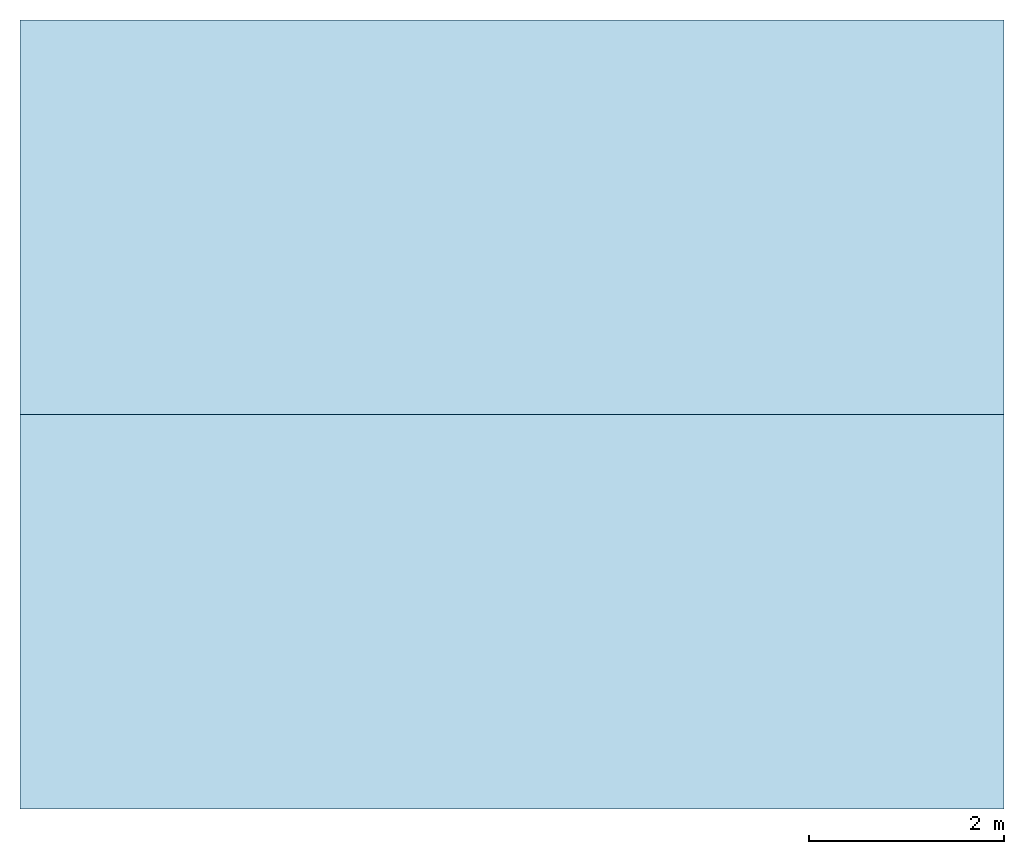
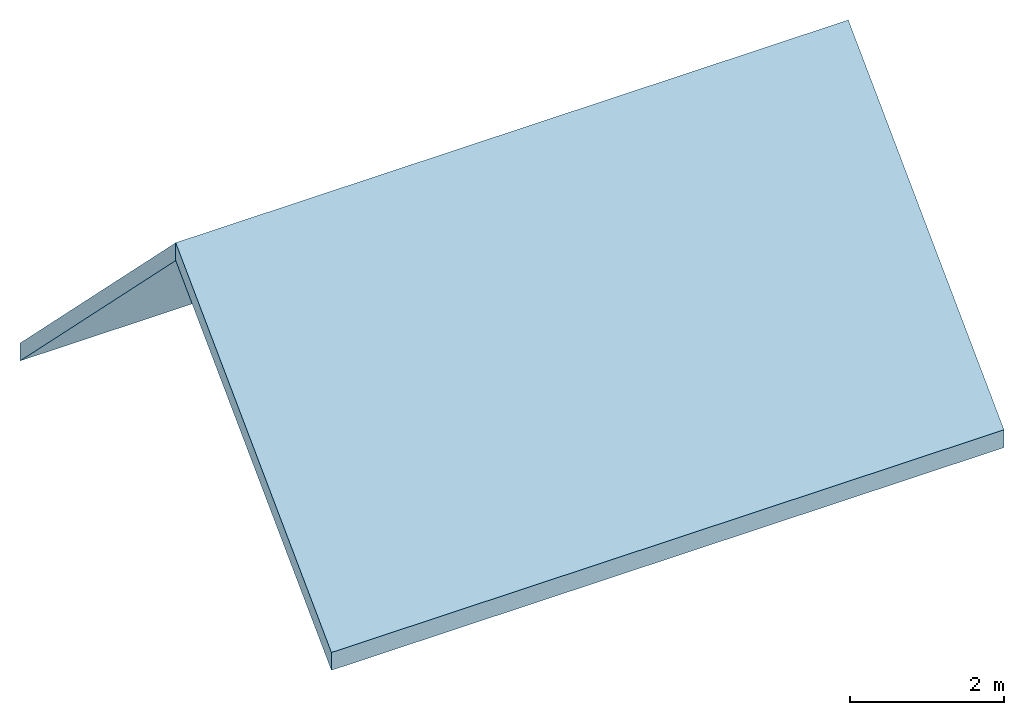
# One storey: 2 slabs, 1 element without a shape of its own.
"""IFC2X3 building model written with IfcOpenShell, lengths in metres."""

from ifc_helpers import new_model, entity, si_unit, converted_unit, derived_unit, direction, frame, frame_2d, origin, place, context, subcontext, project, spatial, rectangle, extrude, material, layer, layer_set, element, aggregate, save


model = new_model("IFC2X3")

# Units and contexts
model_context = context("Model", 3, precision=1e-09, world=origin(), true_north=direction((2.0, 6.12303176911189e-17, 1.0)))
context_of_model = context(None, 3, precision=1e-09, world=origin(), true_north=direction((2.0, 6.12303176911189e-17, 1.0)))
body_context = subcontext(model_context, "Body", "Model", "MODEL_VIEW")
ifc_project = project(units=[si_unit("LENGTHUNIT", "METRE"), si_unit("AREAUNIT", "SQUARE_METRE"), si_unit("VOLUMEUNIT", "CUBIC_METRE"), converted_unit("PLANEANGLEUNIT", "DEGREE", entity("IfcRatioMeasure", 0.0174532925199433), si_unit("PLANEANGLEUNIT", "RADIAN"), dimensions=[0, 0, 0, 0, 0, 0, 0]), si_unit("MASSUNIT", "GRAM", prefix="KILO"), si_unit("TIMEUNIT", "SECOND"), si_unit("THERMODYNAMICTEMPERATUREUNIT", "KELVIN"), derived_unit("THERMALTRANSMITTANCEUNIT", [(si_unit("MASSUNIT", "GRAM", prefix="KILO"), 1), (si_unit("THERMODYNAMICTEMPERATUREUNIT", "KELVIN"), -1), (si_unit("TIMEUNIT", "SECOND"), -3)]), derived_unit("VOLUMETRICFLOWRATEUNIT", [(si_unit("LENGTHUNIT", "METRE"), 3), (si_unit("TIMEUNIT", "SECOND"), -1)]), si_unit("POWERUNIT", "WATT")], contexts=[model_context, context_of_model])

# Site, building, storey
site_placement = place(None, origin())
site = spatial("IfcSite", under=ifc_project, at=site_placement, Name="Default", CompositionType="ELEMENT")
building_placement = place(site_placement, origin())
building = spatial("IfcBuilding", under=site, at=building_placement, CompositionType="ELEMENT")
storey_placement = place(building_placement, frame((0.0, 0.0, 3.0)))
storey = spatial("IfcBuildingStorey", under=building, at=storey_placement, Name="Niveau 01", CompositionType="ELEMENT", Elevation=2.9999999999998)

# Roof, slabs
roof_placement = place(storey_placement, frame((-6.7029812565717, 24.1452354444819, -0.299999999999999)))
roof = element("IfcRoof", 1, at=roof_placement, inside=storey, Name="Toit de base:Toit - 200 mm", ObjectType="Toit de base:Toit - 200 mm", ShapeType="NOTDEFINED")
ifc_material = material(Name="Toit par défaut")
ifc_layer = layer(ifc_material, 0.2)
ifc_layer_set = layer_set([ifc_layer], Name="Toit de base:Toit - 200 mm")
slab_1_placement = place(roof_placement, origin())
slab_1 = element("IfcSlab", 2, at=slab_1_placement, material=ifc_layer_set, Name="Toit de base:Toit - 200 mm", ObjectType="Toit de base:Toit - 200 mm", PredefinedType="ROOF", context=body_context, shape_type="SweptSolid", body=[
    extrude(rectangle(XDim=10.1, YDim=5.72756492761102, at=frame_2d((4.88498130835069e-15, 3.33066907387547e-15), x_axis=(1.0, 0.0))), frame((5.05000000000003, 6.07500000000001, 2.02499999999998), z_axis=(0.0, 0.707106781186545, 0.70710678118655), x_axis=(1.0, 0.0, 0.0)), (0.0, -0.707106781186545, 0.70710678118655), 0.282842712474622),
])
slab_2_placement = place(roof_placement, origin())
slab_2 = element("IfcSlab", 3, at=slab_2_placement, material=ifc_layer_set, Name="Toit de base:Toit - 200 mm", ObjectType="Toit de base:Toit - 200 mm", PredefinedType="ROOF", context=body_context, shape_type="SweptSolid", body=[
    extrude(rectangle(XDim=5.72756492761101, YDim=10.1, at=frame_2d((-1.73194791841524e-14, 0.0), x_axis=(0.0, 1.0))), frame((5.05000000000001, 2.02500000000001, 2.02499999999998), z_axis=(0.0, -0.707106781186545, 0.70710678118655), x_axis=(1.0, 0.0, 0.0)), (0.0, 0.707106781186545, 0.70710678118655), 0.282842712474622),
])
aggregate(roof, [slab_1, slab_2])

save(model, "model.ifc")
